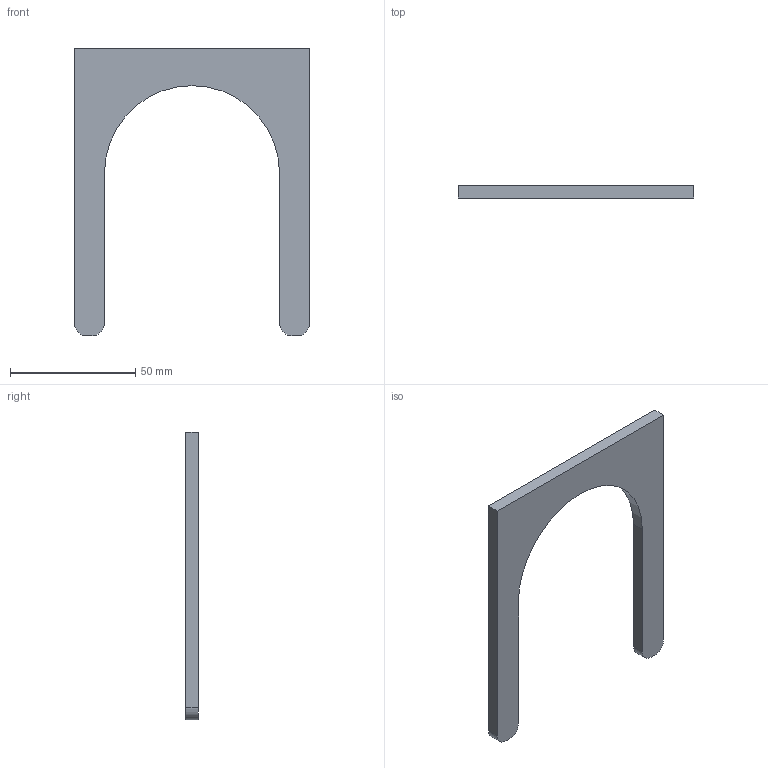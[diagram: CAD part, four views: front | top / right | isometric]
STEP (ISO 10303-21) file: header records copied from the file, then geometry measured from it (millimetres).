
FILE_DESCRIPTION (( 'STEP AP203' ), '1' );
FILE_NAME ('4896_Staffa_2_Dita.STEP', '2019-02-20T19:11:34', ( '' ), ( '' ), 'SwSTEP 2.0', 'SolidWorks 2019', '' );
FILE_SCHEMA (( 'CONFIG_CONTROL_DESIGN' ));
Length unit declared in the file: millimetre
Products named in the file (1): 4896_Staffa_2_Dita
Bounding box: 94 x 5 x 115 mm (x, y, z)
Volume: 21571.6 mm3; surface area: 11525.5 mm2
Topology: 1 solids, 1 shells, 15 faces, 39 edges, 26 vertices
Faces by surface type: plane 9, cylinder 6
Entity records: 542 total; most frequent: DIRECTION 83, CARTESIAN_POINT 81, ORIENTED_EDGE 78, EDGE_CURVE 39, AXIS2_PLACEMENT_3D 28, VECTOR 27, LINE 27, VERTEX_POINT 26
